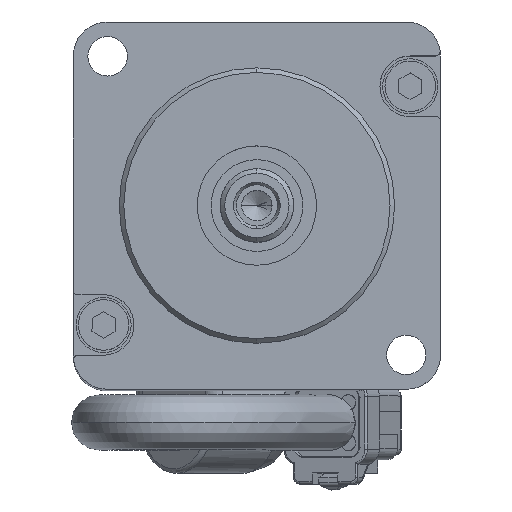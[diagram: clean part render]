
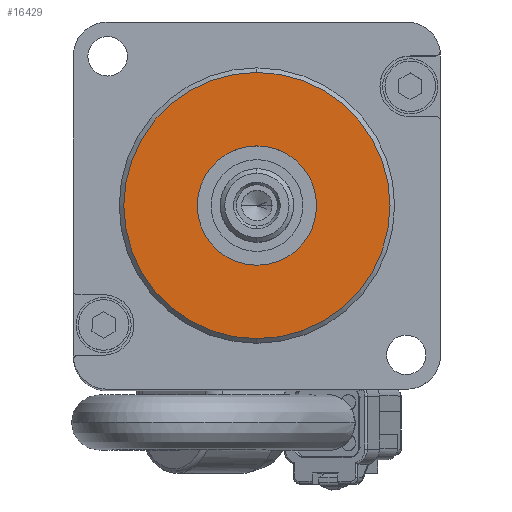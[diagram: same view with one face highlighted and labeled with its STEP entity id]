
A CAD part, top view. The second image highlights one B-rep face of the part: STEP entity #16429.
In plain terms, the highlighted planar face has unit normal (0, 0, 1).
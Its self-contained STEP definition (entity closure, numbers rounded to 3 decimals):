
#325 = DIRECTION ( 'NONE',  ( 0., 0., -1. ) ) ;
#869 = EDGE_CURVE ( 'NONE', #2661, #8210, #1425, .T. ) ;
#1365 = CARTESIAN_POINT ( 'NONE',  ( 0., -14.5, 2.5 ) ) ;
#1425 = CIRCLE ( 'NONE', #3627, 14.5 ) ;
#1542 = DIRECTION ( 'NONE',  ( 0., 0., 1. ) ) ;
#1569 = CIRCLE ( 'NONE', #11019, 6.5 ) ;
#1664 = DIRECTION ( 'NONE',  ( 0., 1., 0. ) ) ;
#2116 = EDGE_CURVE ( 'NONE', #8210, #2661, #10923, .T. ) ;
#2569 = EDGE_CURVE ( 'NONE', #14054, #12736, #6204, .T. ) ;
#2661 = VERTEX_POINT ( 'NONE', #11547 ) ;
#3268 = FACE_BOUND ( 'NONE', #10388, .T. ) ;
#3494 = DIRECTION ( 'NONE',  ( 0., -1., 0. ) ) ;
#3627 = AXIS2_PLACEMENT_3D ( 'NONE', #11032, #325, #9308 ) ;
#4947 = ORIENTED_EDGE ( 'NONE', *, *, #869, .F. ) ;
#5197 = FACE_OUTER_BOUND ( 'NONE', #6149, .T. ) ;
#6043 = EDGE_CURVE ( 'NONE', #12736, #14054, #1569, .T. ) ;
#6105 = DIRECTION ( 'NONE',  ( 0., 0., -1. ) ) ;
#6149 = EDGE_LOOP ( 'NONE', ( #4947, #7556 ) ) ;
#6204 = CIRCLE ( 'NONE', #20042, 6.5 ) ;
#6546 = DIRECTION ( 'NONE',  ( 0., 1., 0. ) ) ;
#7014 = CARTESIAN_POINT ( 'NONE',  ( 0., 0., 2.5 ) ) ;
#7556 = ORIENTED_EDGE ( 'NONE', *, *, #2116, .F. ) ;
#7660 = AXIS2_PLACEMENT_3D ( 'NONE', #13644, #20593, #1664 ) ;
#7927 = DIRECTION ( 'NONE',  ( 0., 1., 0. ) ) ;
#8210 = VERTEX_POINT ( 'NONE', #1365 ) ;
#8857 = ORIENTED_EDGE ( 'NONE', *, *, #2569, .T. ) ;
#9308 = DIRECTION ( 'NONE',  ( 0., 1., 0. ) ) ;
#9961 = DIRECTION ( 'NONE',  ( 0., 0., -1. ) ) ;
#10388 = EDGE_LOOP ( 'NONE', ( #8857, #19262 ) ) ;
#10608 = CARTESIAN_POINT ( 'NONE',  ( 0., -6.5, 2.5 ) ) ;
#10923 = CIRCLE ( 'NONE', #7660, 14.5 ) ;
#11019 = AXIS2_PLACEMENT_3D ( 'NONE', #11677, #9961, #7927 ) ;
#11032 = CARTESIAN_POINT ( 'NONE',  ( 0., 0., 2.5 ) ) ;
#11547 = CARTESIAN_POINT ( 'NONE',  ( 0., 14.5, 2.5 ) ) ;
#11677 = CARTESIAN_POINT ( 'NONE',  ( 0., 0., 2.5 ) ) ;
#12736 = VERTEX_POINT ( 'NONE', #10608 ) ;
#13644 = CARTESIAN_POINT ( 'NONE',  ( 0., 0., 2.5 ) ) ;
#14054 = VERTEX_POINT ( 'NONE', #14063 ) ;
#14063 = CARTESIAN_POINT ( 'NONE',  ( 0., 6.5, 2.5 ) ) ;
#16429 = ADVANCED_FACE ( 'NONE', ( #3268, #5197 ), #22291, .T. ) ;
#18503 = CARTESIAN_POINT ( 'NONE',  ( 0., 0., 2.5 ) ) ;
#19262 = ORIENTED_EDGE ( 'NONE', *, *, #6043, .T. ) ;
#19388 = AXIS2_PLACEMENT_3D ( 'NONE', #7014, #1542, #3494 ) ;
#20042 = AXIS2_PLACEMENT_3D ( 'NONE', #18503, #6105, #6546 ) ;
#20593 = DIRECTION ( 'NONE',  ( 0., 0., -1. ) ) ;
#22291 = PLANE ( 'NONE',  #19388 ) ;
